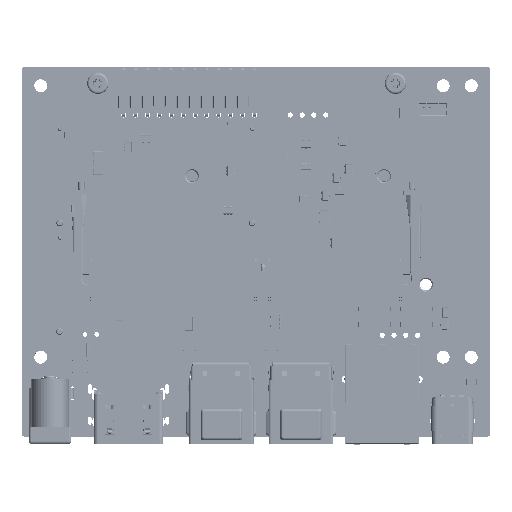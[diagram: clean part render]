
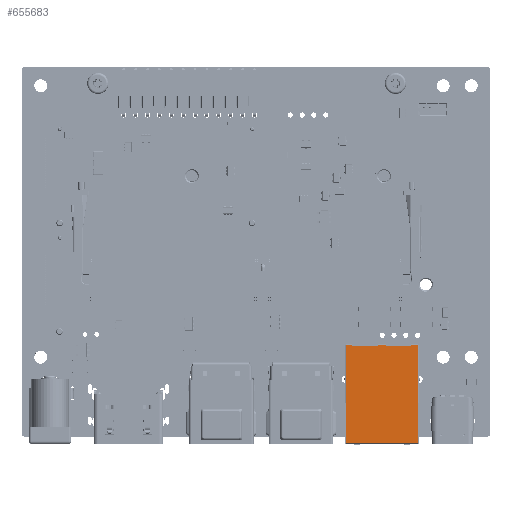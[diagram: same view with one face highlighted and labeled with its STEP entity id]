
A CAD part, top view. The second image highlights one B-rep face of the part: STEP entity #655683.
In plain terms, the highlighted planar face has unit normal (0, 0, 1).
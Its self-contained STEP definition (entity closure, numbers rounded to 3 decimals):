
#614005=DIRECTION('',(0.,1.,0.));
#614006=VECTOR('',#614005,0.19);
#614007=CARTESIAN_POINT('',(-0.85,10.285,13.65));
#614008=LINE('',#614007,#614006);
#614012=DIRECTION('',(1.,0.,
0.));
#614013=VECTOR('',#614012,1.6);
#614014=CARTESIAN_POINT('',(-0.85,10.475,
13.65));
#614015=LINE('',#614014,#614013);
#614019=DIRECTION('',(1.,0.,0.));
#614020=VECTOR('',#614019,5.5);
#614021=CARTESIAN_POINT('',(0.75,10.285,13.65));
#614022=LINE('',#614021,#614020);
#614026=DIRECTION('',(0.,1.,0.));
#614027=VECTOR('',#614026,0.19);
#614028=CARTESIAN_POINT('',(6.25,10.285,13.65));
#614029=LINE('',#614028,#614027);
#614033=DIRECTION('',(1.,0.,0.));
#614034=VECTOR('',#614033,1.5);
#614035=CARTESIAN_POINT('',(6.25,10.475,
13.65));
#614036=LINE('',#614035,#614034);
#614040=DIRECTION('',(-1.,0.,0.));
#614041=VECTOR('',#614040,15.5);
#614042=CARTESIAN_POINT('',(7.75,-10.475,
13.65));
#614043=LINE('',#614042,#614041);
#614047=DIRECTION('',(0.,1.,
0.));
#614048=VECTOR('',#614047,8.571);
#614049=CARTESIAN_POINT('',(-7.75,-10.475,
13.65));
#614050=LINE('',#614049,#614048);
#614054=DIRECTION('',(1.,0.,0.));
#614055=VECTOR('',#614054,1.4);
#614056=CARTESIAN_POINT('',(-7.75,10.475,
13.65));
#614057=LINE('',#614056,#614055);
#614061=DIRECTION('',(0.,1.,0.));
#614062=VECTOR('',#614061,0.19);
#614063=CARTESIAN_POINT('',(-6.35,10.285,13.65));
#614064=LINE('',#614063,#614062);
#614120=DIRECTION('',(0.,-1.,0.));
#614121=VECTOR('',#614120,12.379);
#614122=CARTESIAN_POINT('',(-7.75,10.475,
13.65));
#614123=LINE('',#614122,#614121);
#614164=DIRECTION('',(0.,1.,0.));
#614165=VECTOR('',#614164,8.571);
#614166=CARTESIAN_POINT('',(7.75,-10.475,
13.65));
#614167=LINE('',#614166,#614165);
#614229=DIRECTION('',(0.,1.,0.));
#614230=VECTOR('',#614229,12.379);
#614231=CARTESIAN_POINT('',(7.75,-1.904,
13.65));
#614232=LINE('',#614231,#614230);
#614803=DIRECTION('',(0.,1.,0.));
#614804=VECTOR('',#614803,0.19);
#614805=CARTESIAN_POINT('',(0.75,10.285,13.65));
#614806=LINE('',#614805,#614804);
#614861=DIRECTION('',(-1.,0.,0.));
#614862=VECTOR('',#614861,5.5);
#614863=CARTESIAN_POINT('',(-0.85,10.285,13.65));
#614864=LINE('',#614863,#614862);
#625029=CARTESIAN_POINT('',(0.75,10.285,13.65));
#625030=CARTESIAN_POINT('',(6.25,10.285,13.65));
#625031=VERTEX_POINT('',#625029);
#625032=VERTEX_POINT('',#625030);
#625033=CARTESIAN_POINT('',(-6.35,10.285,13.65));
#625034=CARTESIAN_POINT('',(-6.35,10.475,13.65));
#625035=VERTEX_POINT('',#625033);
#625036=VERTEX_POINT('',#625034);
#625037=CARTESIAN_POINT('',(-0.85,10.285,13.65));
#625038=VERTEX_POINT('',#625037);
#625039=CARTESIAN_POINT('',(-0.85,10.475,
13.65));
#625040=VERTEX_POINT('',#625039);
#625041=CARTESIAN_POINT('',(0.75,10.475,
13.65));
#625042=VERTEX_POINT('',#625041);
#625043=CARTESIAN_POINT('',(6.25,10.475,
13.65));
#625044=VERTEX_POINT('',#625043);
#625045=CARTESIAN_POINT('',(7.75,10.475,
13.65));
#625046=VERTEX_POINT('',#625045);
#625047=CARTESIAN_POINT('',(7.75,-1.904,
13.65));
#625048=VERTEX_POINT('',#625047);
#625049=CARTESIAN_POINT('',(7.75,-10.475,
13.65));
#625050=VERTEX_POINT('',#625049);
#625051=CARTESIAN_POINT('',(-7.75,-10.475,
13.65));
#625052=VERTEX_POINT('',#625051);
#625053=CARTESIAN_POINT('',(-7.75,-1.904,
13.65));
#625054=VERTEX_POINT('',#625053);
#625055=CARTESIAN_POINT('',(-7.75,10.475,
13.65));
#625056=VERTEX_POINT('',#625055);
#655649=CARTESIAN_POINT('',(0.,0.,
13.65));
#655650=DIRECTION('',(0.,0.,1.));
#655651=DIRECTION('',(1.,0.,0.));
#655652=AXIS2_PLACEMENT_3D('',#655649,#655650,#655651);
#655653=PLANE('',#655652);
#655655=ORIENTED_EDGE('',*,*,#655654,.F.);
#655657=ORIENTED_EDGE('',*,*,#655656,.F.);
#655659=ORIENTED_EDGE('',*,*,#655658,.T.);
#655661=ORIENTED_EDGE('',*,*,#655660,.T.);
#655663=ORIENTED_EDGE('',*,*,#655662,.F.);
#655664=ORIENTED_EDGE('',*,*,#655639,.T.);
#655666=ORIENTED_EDGE('',*,*,#655665,.T.);
#655668=ORIENTED_EDGE('',*,*,#655667,.T.);
#655670=ORIENTED_EDGE('',*,*,#655669,.F.);
#655672=ORIENTED_EDGE('',*,*,#655671,.F.);
#655674=ORIENTED_EDGE('',*,*,#655673,.T.);
#655676=ORIENTED_EDGE('',*,*,#655675,.T.);
#655678=ORIENTED_EDGE('',*,*,#655677,.F.);
#655680=ORIENTED_EDGE('',*,*,#655679,.T.);
#655681=EDGE_LOOP('',(#655655,#655657,#655659,#655661,#655663,#655664,#655666,
#655668,#655670,#655672,#655674,#655676,#655678,#655680));
#655682=FACE_OUTER_BOUND('',#655681,.F.);
#655639=EDGE_CURVE('',#625031,#625032,#614022,.T.);
#655654=EDGE_CURVE('',#625035,#625036,#614064,.T.);
#655656=EDGE_CURVE('',#625038,#625035,#614864,.T.);
#655658=EDGE_CURVE('',#625038,#625040,#614008,.T.);
#655660=EDGE_CURVE('',#625040,#625042,#614015,.T.);
#655662=EDGE_CURVE('',#625031,#625042,#614806,.T.);
#655665=EDGE_CURVE('',#625032,#625044,#614029,.T.);
#655667=EDGE_CURVE('',#625044,#625046,#614036,.T.);
#655669=EDGE_CURVE('',#625048,#625046,#614232,.T.);
#655671=EDGE_CURVE('',#625050,#625048,#614167,.T.);
#655673=EDGE_CURVE('',#625050,#625052,#614043,.T.);
#655675=EDGE_CURVE('',#625052,#625054,#614050,.T.);
#655677=EDGE_CURVE('',#625056,#625054,#614123,.T.);
#655679=EDGE_CURVE('',#625056,#625036,#614057,.T.);
#655683=ADVANCED_FACE('',(#655682),#655653,.T.);
